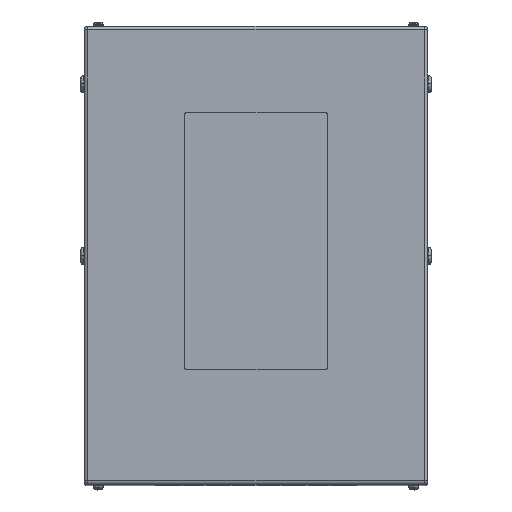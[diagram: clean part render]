
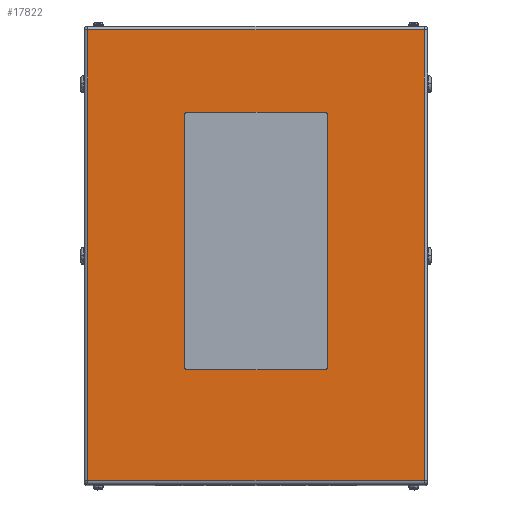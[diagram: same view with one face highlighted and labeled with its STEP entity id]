
A CAD part, top view. The second image highlights one B-rep face of the part: STEP entity #17822.
In plain terms, the highlighted planar face has unit normal (0, 0, 1).
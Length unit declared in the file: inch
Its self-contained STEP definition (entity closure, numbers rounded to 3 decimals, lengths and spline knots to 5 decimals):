
#41 = LINE ( 'NONE', #3933, #12837 ) ;
#1168 = ORIENTED_EDGE ( 'NONE', *, *, #17576, .T. ) ;
#1433 = DIRECTION ( 'NONE',  ( 1., 0., 0. ) ) ;
#1654 = DIRECTION ( 'NONE',  ( -1., 0., 0. ) ) ;
#1668 = DIRECTION ( 'NONE',  ( 1., 0., 0. ) ) ;
#1975 = ORIENTED_EDGE ( 'NONE', *, *, #7504, .T. ) ;
#2143 = EDGE_LOOP ( 'NONE', ( #6391, #13639, #17600, #21074, #6321, #12667, #5776, #20710 ) ) ;
#2203 = DIRECTION ( 'NONE',  ( 0., 0., -1. ) ) ;
#2484 = CARTESIAN_POINT ( 'NONE',  ( 12., 15.734, 26. ) ) ;
#2541 = VERTEX_POINT ( 'NONE', #21873 ) ;
#2667 = VECTOR ( 'NONE', #14707, 39.37008 ) ;
#2896 = CIRCLE ( 'NONE', #13014, 0.25 ) ;
#3090 = EDGE_LOOP ( 'NONE', ( #5492, #1975, #1168, #19793 ) ) ;
#3243 = CARTESIAN_POINT ( 'NONE',  ( 5., 9.75, 26. ) ) ;
#3548 = EDGE_CURVE ( 'NONE', #21578, #11938, #19714, .T. ) ;
#3847 = VERTEX_POINT ( 'NONE', #16898 ) ;
#3874 = LINE ( 'NONE', #12910, #16885 ) ;
#3889 = LINE ( 'NONE', #5637, #2667 ) ;
#3915 = VERTEX_POINT ( 'NONE', #8072 ) ;
#3933 = CARTESIAN_POINT ( 'NONE',  ( -11.734, 16., 26. ) ) ;
#3980 = DIRECTION ( 'NONE',  ( 0., 1., 0. ) ) ;
#4101 = VECTOR ( 'NONE', #14819, 39.37008 ) ;
#4275 = CIRCLE ( 'NONE', #14795, 0.25 ) ;
#4919 = CARTESIAN_POINT ( 'NONE',  ( -11.734, -15.734, 26. ) ) ;
#5468 = CARTESIAN_POINT ( 'NONE',  ( 4.75, -7.75, 26. ) ) ;
#5481 = CARTESIAN_POINT ( 'NONE',  ( 11.734, 15.734, 26. ) ) ;
#5492 = ORIENTED_EDGE ( 'NONE', *, *, #21751, .T. ) ;
#5637 = CARTESIAN_POINT ( 'NONE',  ( 11.734, 16., 26. ) ) ;
#5776 = ORIENTED_EDGE ( 'NONE', *, *, #19629, .F. ) ;
#6321 = ORIENTED_EDGE ( 'NONE', *, *, #3548, .F. ) ;
#6391 = ORIENTED_EDGE ( 'NONE', *, *, #9849, .F. ) ;
#7068 = VECTOR ( 'NONE', #11819, 39.37008 ) ;
#7232 = DIRECTION ( 'NONE',  ( 0., -1., 0. ) ) ;
#7237 = DIRECTION ( 'NONE',  ( 0., 0., 1. ) ) ;
#7263 = VERTEX_POINT ( 'NONE', #3243 ) ;
#7504 = EDGE_CURVE ( 'NONE', #22527, #10424, #15330, .T. ) ;
#8072 = CARTESIAN_POINT ( 'NONE',  ( -11.734, 15.734, 26. ) ) ;
#8611 = CARTESIAN_POINT ( 'NONE',  ( -4.75, 9.75, 26. ) ) ;
#9130 = VECTOR ( 'NONE', #14956, 39.37008 ) ;
#9609 = PLANE ( 'NONE',  #20032 ) ;
#9849 = EDGE_CURVE ( 'NONE', #2541, #22831, #12711, .T. ) ;
#9904 = EDGE_CURVE ( 'NONE', #20456, #3915, #11296, .T. ) ;
#10424 = VERTEX_POINT ( 'NONE', #22321 ) ;
#10624 = EDGE_CURVE ( 'NONE', #3847, #2541, #4275, .T. ) ;
#11041 = FACE_OUTER_BOUND ( 'NONE', #3090, .T. ) ;
#11161 = CARTESIAN_POINT ( 'NONE',  ( -5., 9.75, 26. ) ) ;
#11296 = LINE ( 'NONE', #2484, #9130 ) ;
#11811 = CARTESIAN_POINT ( 'NONE',  ( -4.75, -7.75, 26. ) ) ;
#11819 = DIRECTION ( 'NONE',  ( 1., 0., 0. ) ) ;
#11938 = VERTEX_POINT ( 'NONE', #22978 ) ;
#12481 = CIRCLE ( 'NONE', #18145, 0.25 ) ;
#12667 = ORIENTED_EDGE ( 'NONE', *, *, #21621, .F. ) ;
#12711 = LINE ( 'NONE', #17803, #22304 ) ;
#12837 = VECTOR ( 'NONE', #7232, 39.37008 ) ;
#12910 = CARTESIAN_POINT ( 'NONE',  ( 5., 9.75, 26. ) ) ;
#12917 = LINE ( 'NONE', #11161, #4101 ) ;
#12981 = EDGE_CURVE ( 'NONE', #22831, #15557, #2896, .T. ) ;
#13014 = AXIS2_PLACEMENT_3D ( 'NONE', #5468, #7237, #19762 ) ;
#13639 = ORIENTED_EDGE ( 'NONE', *, *, #10624, .F. ) ;
#14396 = DIRECTION ( 'NONE',  ( 0., 0., 1. ) ) ;
#14490 = EDGE_CURVE ( 'NONE', #11938, #20511, #21950, .T. ) ;
#14569 = DIRECTION ( 'NONE',  ( 0., 0., 1. ) ) ;
#14707 = DIRECTION ( 'NONE',  ( 0., 1., 0. ) ) ;
#14795 = AXIS2_PLACEMENT_3D ( 'NONE', #11811, #22551, #19020 ) ;
#14819 = DIRECTION ( 'NONE',  ( 0., -1., 0. ) ) ;
#14956 = DIRECTION ( 'NONE',  ( -1., 0., 0. ) ) ;
#15330 = LINE ( 'NONE', #21037, #7068 ) ;
#15557 = VERTEX_POINT ( 'NONE', #17826 ) ;
#15663 = CARTESIAN_POINT ( 'NONE',  ( -4.75, 10., 26. ) ) ;
#16435 = CARTESIAN_POINT ( 'NONE',  ( 12., 16., 26. ) ) ;
#16557 = DIRECTION ( 'NONE',  ( -1., 0., 0. ) ) ;
#16885 = VECTOR ( 'NONE', #3980, 39.37008 ) ;
#16898 = CARTESIAN_POINT ( 'NONE',  ( -5., -7.75, 26. ) ) ;
#16977 = EDGE_CURVE ( 'NONE', #20511, #3847, #12917, .T. ) ;
#17576 = EDGE_CURVE ( 'NONE', #10424, #20456, #3889, .T. ) ;
#17600 = ORIENTED_EDGE ( 'NONE', *, *, #16977, .F. ) ;
#17803 = CARTESIAN_POINT ( 'NONE',  ( -4.75, -8., 26. ) ) ;
#17822 = ADVANCED_FACE ( 'NONE', ( #21911, #11041 ), #9609, .F. ) ;
#17826 = CARTESIAN_POINT ( 'NONE',  ( 5., -7.75, 26. ) ) ;
#17886 = CARTESIAN_POINT ( 'NONE',  ( 4.75, 10., 26. ) ) ;
#18086 = CARTESIAN_POINT ( 'NONE',  ( -5., 9.75, 26. ) ) ;
#18145 = AXIS2_PLACEMENT_3D ( 'NONE', #18247, #14569, #21929 ) ;
#18193 = CARTESIAN_POINT ( 'NONE',  ( 4.75, -8., 26. ) ) ;
#18247 = CARTESIAN_POINT ( 'NONE',  ( 4.75, 9.75, 26. ) ) ;
#19020 = DIRECTION ( 'NONE',  ( 1., 0., 0. ) ) ;
#19629 = EDGE_CURVE ( 'NONE', #15557, #7263, #3874, .T. ) ;
#19714 = LINE ( 'NONE', #15663, #21357 ) ;
#19762 = DIRECTION ( 'NONE',  ( 1., 0., 0. ) ) ;
#19793 = ORIENTED_EDGE ( 'NONE', *, *, #9904, .T. ) ;
#20032 = AXIS2_PLACEMENT_3D ( 'NONE', #16435, #2203, #16557 ) ;
#20456 = VERTEX_POINT ( 'NONE', #5481 ) ;
#20511 = VERTEX_POINT ( 'NONE', #18086 ) ;
#20710 = ORIENTED_EDGE ( 'NONE', *, *, #12981, .F. ) ;
#21037 = CARTESIAN_POINT ( 'NONE',  ( 11.734, -15.734, 26. ) ) ;
#21074 = ORIENTED_EDGE ( 'NONE', *, *, #14490, .F. ) ;
#21357 = VECTOR ( 'NONE', #1654, 39.37008 ) ;
#21578 = VERTEX_POINT ( 'NONE', #17886 ) ;
#21621 = EDGE_CURVE ( 'NONE', #7263, #21578, #12481, .T. ) ;
#21751 = EDGE_CURVE ( 'NONE', #3915, #22527, #41, .T. ) ;
#21873 = CARTESIAN_POINT ( 'NONE',  ( -4.75, -8., 26. ) ) ;
#21911 = FACE_BOUND ( 'NONE', #2143, .T. ) ;
#21929 = DIRECTION ( 'NONE',  ( -1., 0., 0. ) ) ;
#21950 = CIRCLE ( 'NONE', #22699, 0.25 ) ;
#22304 = VECTOR ( 'NONE', #1668, 39.37008 ) ;
#22321 = CARTESIAN_POINT ( 'NONE',  ( 11.734, -15.734, 26. ) ) ;
#22527 = VERTEX_POINT ( 'NONE', #4919 ) ;
#22551 = DIRECTION ( 'NONE',  ( 0., 0., 1. ) ) ;
#22699 = AXIS2_PLACEMENT_3D ( 'NONE', #8611, #14396, #1433 ) ;
#22831 = VERTEX_POINT ( 'NONE', #18193 ) ;
#22978 = CARTESIAN_POINT ( 'NONE',  ( -4.75, 10., 26. ) ) ;
